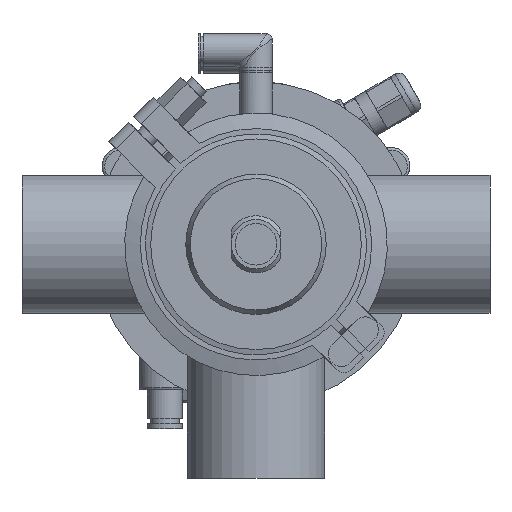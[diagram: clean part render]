
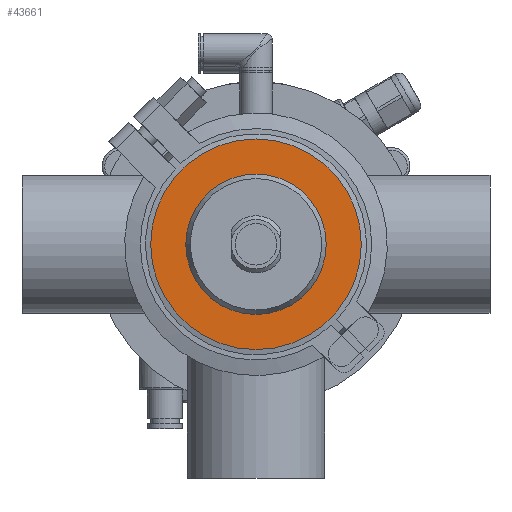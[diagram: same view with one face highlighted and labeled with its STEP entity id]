
A CAD part, front view. The second image highlights one B-rep face of the part: STEP entity #43661.
In plain terms, the highlighted planar face has unit normal (0, -1, 0).
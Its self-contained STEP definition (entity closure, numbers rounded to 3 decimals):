
#318 = CIRCLE ( 'NONE', #50910, 40.5 ) ;
#869 = DIRECTION ( 'NONE',  ( 0., 0., 1. ) ) ;
#5705 = VERTEX_POINT ( 'NONE', #30057 ) ;
#7712 = AXIS2_PLACEMENT_3D ( 'NONE', #38537, #59081, #49644 ) ;
#19941 = FACE_OUTER_BOUND ( 'NONE', #24940, .T. ) ;
#21178 = CARTESIAN_POINT ( 'NONE',  ( 0., -13., 0. ) ) ;
#24940 = EDGE_LOOP ( 'NONE', ( #36437 ) ) ;
#28804 = CARTESIAN_POINT ( 'NONE',  ( 0., -13., 27. ) ) ;
#30057 = CARTESIAN_POINT ( 'NONE',  ( 0., -13., 40.5 ) ) ;
#34471 = FACE_BOUND ( 'NONE', #61171, .T. ) ;
#36437 = ORIENTED_EDGE ( 'NONE', *, *, #46575, .F. ) ;
#37717 = DIRECTION ( 'NONE',  ( 0., 1., 0. ) ) ;
#38537 = CARTESIAN_POINT ( 'NONE',  ( -40.5, -13., 0. ) ) ;
#39165 = PLANE ( 'NONE',  #7712 ) ;
#40580 = EDGE_CURVE ( 'NONE', #52274, #52274, #59980, .T. ) ;
#41146 = ORIENTED_EDGE ( 'NONE', *, *, #40580, .T. ) ;
#41518 = DIRECTION ( 'NONE',  ( 0., 0., 1. ) ) ;
#42731 = CARTESIAN_POINT ( 'NONE',  ( 0., -13., 0. ) ) ;
#43661 = ADVANCED_FACE ( 'NONE', ( #34471, #19941 ), #39165, .T. ) ;
#43786 = AXIS2_PLACEMENT_3D ( 'NONE', #21178, #44205, #869 ) ;
#44205 = DIRECTION ( 'NONE',  ( 0., 1., 0. ) ) ;
#46575 = EDGE_CURVE ( 'NONE', #5705, #5705, #318, .T. ) ;
#49644 = DIRECTION ( 'NONE',  ( 0., 0., -1. ) ) ;
#50910 = AXIS2_PLACEMENT_3D ( 'NONE', #42731, #37717, #41518 ) ;
#52274 = VERTEX_POINT ( 'NONE', #28804 ) ;
#59081 = DIRECTION ( 'NONE',  ( 0., -1., 0. ) ) ;
#59980 = CIRCLE ( 'NONE', #43786, 27. ) ;
#61171 = EDGE_LOOP ( 'NONE', ( #41146 ) ) ;
